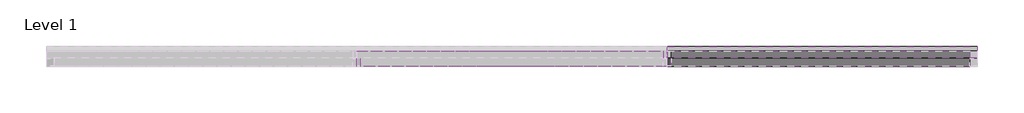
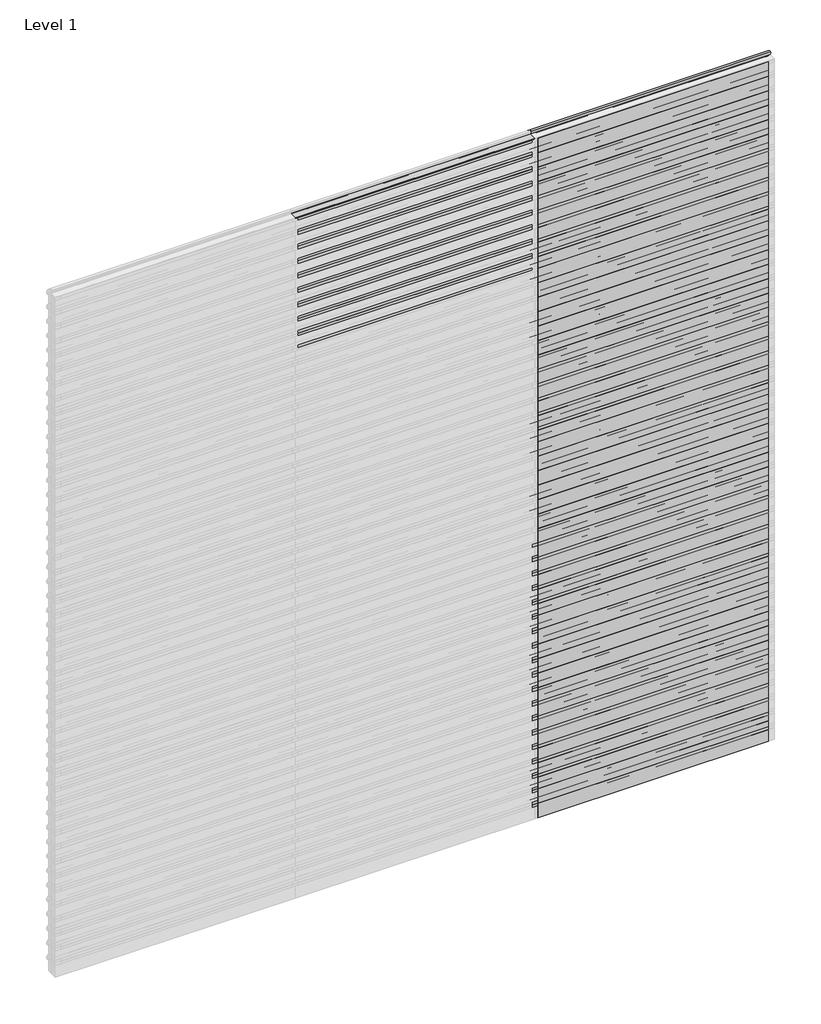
# One storey, part 4 of 5: 66 members, 57 plates.
"""IFC4 building model written with IfcOpenShell, lengths in millimetres."""

from ifc_helpers import new_model, si_unit, origin, place, context, project, spatial, transform, mapped, element, save
from components import rectangular_mullion_d23d7044, rectangular_mullion_172e3795, empty_system_panel_empty_3140acd4, empty_system_panel_empty_07f90b1f, empty_system_panel_empty_c620d78e

model = new_model("IFC4")

# Units and contexts
model_context = context("Model", 3, world=origin())
ifc_project = project(units=[si_unit("LENGTHUNIT", "METRE", prefix="MILLI")], contexts=[model_context])

# Site, building, storey
site = spatial("IfcSite", under=ifc_project)
building = spatial("IfcBuilding", under=site)
storey = spatial("IfcBuildingStorey", under=building, Name="Level 1", Elevation=0.0)

# Members
placement = place(None, origin())
rectangular_mullion_shape = rectangular_mullion_d23d7044(model_context)
element("IfcMember", 1, ObjectType="Rectangular Mullion : RSen_21_CWM_blade - 100 D_gen_duco projects", at=placement, inside=storey, context=model_context, shape_type="MappedRepresentation", body=[
    mapped(rectangular_mullion_shape, transform((4000.0, 3000.0, 127.5), x_axis=(0.0, 0.0, 1.0), y_axis=(0.0, 1.0, 0.0), z_axis=(-1.0, 0.0, 0.0))),
])
element("IfcMember", 2, ObjectType="Rectangular Mullion : RSen_21_CWM_blade - 100 D_gen_duco projects", at=placement, inside=storey, context=model_context, shape_type="MappedRepresentation", body=[
    mapped(rectangular_mullion_shape, transform((4000.0, 3000.0, 255.0), x_axis=(0.0, 0.0, 1.0), y_axis=(0.0, 1.0, 0.0), z_axis=(-1.0, 0.0, 0.0))),
])
element("IfcMember", 3, ObjectType="Rectangular Mullion : RSen_21_CWM_blade - 100 D_gen_duco projects", at=placement, inside=storey, context=model_context, shape_type="MappedRepresentation", body=[
    mapped(rectangular_mullion_shape, transform((4000.0, 3000.0, 382.5), x_axis=(0.0, 0.0, 1.0), y_axis=(0.0, 1.0, 0.0), z_axis=(-1.0, 0.0, 0.0))),
])
element("IfcMember", 4, ObjectType="Rectangular Mullion : RSen_21_CWM_blade - 100 D_gen_duco projects", at=placement, inside=storey, context=model_context, shape_type="MappedRepresentation", body=[
    mapped(rectangular_mullion_shape, transform((4000.0, 3000.0, 510.0), x_axis=(0.0, 0.0, 1.0), y_axis=(0.0, 1.0, 0.0), z_axis=(-1.0, 0.0, 0.0))),
])
element("IfcMember", 5, ObjectType="Rectangular Mullion : RSen_21_CWM_blade - 100 D_gen_duco projects", at=placement, inside=storey, context=model_context, shape_type="MappedRepresentation", body=[
    mapped(rectangular_mullion_shape, transform((4000.0, 3000.0, 637.5), x_axis=(0.0, 0.0, 1.0), y_axis=(0.0, 1.0, 0.0), z_axis=(-1.0, 0.0, 0.0))),
])
element("IfcMember", 6, ObjectType="Rectangular Mullion : RSen_21_CWM_blade - 100 D_gen_duco projects", at=placement, inside=storey, context=model_context, shape_type="MappedRepresentation", body=[
    mapped(rectangular_mullion_shape, transform((4000.0, 3000.0, 765.0), x_axis=(0.0, 0.0, 1.0), y_axis=(0.0, 1.0, 0.0), z_axis=(-1.0, 0.0, 0.0))),
])
element("IfcMember", 7, ObjectType="Rectangular Mullion : RSen_21_CWM_blade - 100 D_gen_duco projects", at=placement, inside=storey, context=model_context, shape_type="MappedRepresentation", body=[
    mapped(rectangular_mullion_shape, transform((4000.0, 3000.0, 892.5), x_axis=(0.0, 0.0, 1.0), y_axis=(0.0, 1.0, 0.0), z_axis=(-1.0, 0.0, 0.0))),
])
element("IfcMember", 8, ObjectType="Rectangular Mullion : RSen_21_CWM_blade - 100 D_gen_duco projects", at=placement, inside=storey, context=model_context, shape_type="MappedRepresentation", body=[
    mapped(rectangular_mullion_shape, transform((4000.0, 3000.0, 1020.0), x_axis=(0.0, 0.0, 1.0), y_axis=(0.0, 1.0, 0.0), z_axis=(-1.0, 0.0, 0.0))),
])
element("IfcMember", 9, ObjectType="Rectangular Mullion : RSen_21_CWM_blade - 100 D_gen_duco projects", at=placement, inside=storey, context=model_context, shape_type="MappedRepresentation", body=[
    mapped(rectangular_mullion_shape, transform((4000.0, 3000.0, 1147.5), x_axis=(0.0, 0.0, 1.0), y_axis=(0.0, 1.0, 0.0), z_axis=(-1.0, 0.0, 0.0))),
])
element("IfcMember", 10, ObjectType="Rectangular Mullion : RSen_21_CWM_blade - 100 D_gen_duco projects", at=placement, inside=storey, context=model_context, shape_type="MappedRepresentation", body=[
    mapped(rectangular_mullion_shape, transform((4000.0, 3000.0, 1275.0), x_axis=(0.0, 0.0, 1.0), y_axis=(0.0, 1.0, 0.0), z_axis=(-1.0, 0.0, 0.0))),
])
element("IfcMember", 11, ObjectType="Rectangular Mullion : RSen_21_CWM_blade - 100 D_gen_duco projects", at=placement, inside=storey, context=model_context, shape_type="MappedRepresentation", body=[
    mapped(rectangular_mullion_shape, transform((4000.0, 3000.0, 1402.5), x_axis=(0.0, 0.0, 1.0), y_axis=(0.0, 1.0, 0.0), z_axis=(-1.0, 0.0, 0.0))),
])
element("IfcMember", 12, ObjectType="Rectangular Mullion : RSen_21_CWM_blade - 100 D_gen_duco projects", at=placement, inside=storey, context=model_context, shape_type="MappedRepresentation", body=[
    mapped(rectangular_mullion_shape, transform((4000.0, 3000.0, 1530.0), x_axis=(0.0, 0.0, 1.0), y_axis=(0.0, 1.0, 0.0), z_axis=(-1.0, 0.0, 0.0))),
])
element("IfcMember", 13, ObjectType="Rectangular Mullion : RSen_21_CWM_blade - 100 D_gen_duco projects", at=placement, inside=storey, context=model_context, shape_type="MappedRepresentation", body=[
    mapped(rectangular_mullion_shape, transform((4000.0, 3000.0, 1657.5), x_axis=(0.0, 0.0, 1.0), y_axis=(0.0, 1.0, 0.0), z_axis=(-1.0, 0.0, 0.0))),
])
element("IfcMember", 14, ObjectType="Rectangular Mullion : RSen_21_CWM_blade - 100 D_gen_duco projects", at=placement, inside=storey, context=model_context, shape_type="MappedRepresentation", body=[
    mapped(rectangular_mullion_shape, transform((4000.0, 3000.0, 1785.0), x_axis=(0.0, 0.0, 1.0), y_axis=(0.0, 1.0, 0.0), z_axis=(-1.0, 0.0, 0.0))),
])
element("IfcMember", 15, ObjectType="Rectangular Mullion : RSen_21_CWM_blade - 100 D_gen_duco projects", at=placement, inside=storey, context=model_context, shape_type="MappedRepresentation", body=[
    mapped(rectangular_mullion_shape, transform((4000.0, 3000.0, 1912.5), x_axis=(0.0, 0.0, 1.0), y_axis=(0.0, 1.0, 0.0), z_axis=(-1.0, 0.0, 0.0))),
])
element("IfcMember", 16, ObjectType="Rectangular Mullion : RSen_21_CWM_blade - 100 D_gen_duco projects", at=placement, inside=storey, context=model_context, shape_type="MappedRepresentation", body=[
    mapped(rectangular_mullion_shape, transform((4000.0, 3000.0, 2040.0), x_axis=(0.0, 0.0, 1.0), y_axis=(0.0, 1.0, 0.0), z_axis=(-1.0, 0.0, 0.0))),
])
element("IfcMember", 17, ObjectType="Rectangular Mullion : RSen_21_CWM_blade - 100 D_gen_duco projects", at=placement, inside=storey, context=model_context, shape_type="MappedRepresentation", body=[
    mapped(rectangular_mullion_shape, transform((4000.0, 3000.0, 2167.5), x_axis=(0.0, 0.0, 1.0), y_axis=(0.0, 1.0, 0.0), z_axis=(-1.0, 0.0, 0.0))),
])
element("IfcMember", 18, ObjectType="Rectangular Mullion : RSen_21_CWM_blade - 100 D_gen_duco projects", at=placement, inside=storey, context=model_context, shape_type="MappedRepresentation", body=[
    mapped(rectangular_mullion_shape, transform((4000.0, 3000.0, 2295.0), x_axis=(0.0, 0.0, 1.0), y_axis=(0.0, 1.0, 0.0), z_axis=(-1.0, 0.0, 0.0))),
])
element("IfcMember", 19, ObjectType="Rectangular Mullion : RSen_21_CWM_blade - 100 D_gen_duco projects", at=placement, inside=storey, context=model_context, shape_type="MappedRepresentation", body=[
    mapped(rectangular_mullion_shape, transform((4000.0, 3000.0, 2422.5), x_axis=(0.0, 0.0, 1.0), y_axis=(0.0, 1.0, 0.0), z_axis=(-1.0, 0.0, 0.0))),
])
element("IfcMember", 20, ObjectType="Rectangular Mullion : RSen_21_CWM_blade - 100 D_gen_duco projects", at=placement, inside=storey, context=model_context, shape_type="MappedRepresentation", body=[
    mapped(rectangular_mullion_shape, transform((4000.0, 3000.0, 2550.0), x_axis=(0.0, 0.0, 1.0), y_axis=(0.0, 1.0, 0.0), z_axis=(-1.0, 0.0, 0.0))),
])
element("IfcMember", 21, ObjectType="Rectangular Mullion : RSen_21_CWM_blade - 100 D_gen_duco projects", at=placement, inside=storey, context=model_context, shape_type="MappedRepresentation", body=[
    mapped(rectangular_mullion_shape, transform((4000.0, 3000.0, 2677.5), x_axis=(0.0, 0.0, 1.0), y_axis=(0.0, 1.0, 0.0), z_axis=(-1.0, 0.0, 0.0))),
])
element("IfcMember", 22, ObjectType="Rectangular Mullion : RSen_21_CWM_blade - 100 D_gen_duco projects", at=placement, inside=storey, context=model_context, shape_type="MappedRepresentation", body=[
    mapped(rectangular_mullion_shape, transform((4000.0, 3000.0, 2805.0), x_axis=(0.0, 0.0, 1.0), y_axis=(0.0, 1.0, 0.0), z_axis=(-1.0, 0.0, 0.0))),
])
element("IfcMember", 23, ObjectType="Rectangular Mullion : RSen_21_CWM_blade - 100 D_gen_duco projects", at=placement, inside=storey, context=model_context, shape_type="MappedRepresentation", body=[
    mapped(rectangular_mullion_shape, transform((4000.0, 3000.0, 2932.5), x_axis=(0.0, 0.0, 1.0), y_axis=(0.0, 1.0, 0.0), z_axis=(-1.0, 0.0, 0.0))),
])
element("IfcMember", 24, ObjectType="Rectangular Mullion : RSen_21_CWM_blade - 100 D_gen_duco projects", at=placement, inside=storey, context=model_context, shape_type="MappedRepresentation", body=[
    mapped(rectangular_mullion_shape, transform((4000.0, 3000.0, 3060.0), x_axis=(0.0, 0.0, 1.0), y_axis=(0.0, 1.0, 0.0), z_axis=(-1.0, 0.0, 0.0))),
])
element("IfcMember", 25, ObjectType="Rectangular Mullion : RSen_21_CWM_blade - 100 D_gen_duco projects", at=placement, inside=storey, context=model_context, shape_type="MappedRepresentation", body=[
    mapped(rectangular_mullion_shape, transform((4000.0, 3000.0, 3187.5), x_axis=(0.0, 0.0, 1.0), y_axis=(0.0, 1.0, 0.0), z_axis=(-1.0, 0.0, 0.0))),
])
element("IfcMember", 26, ObjectType="Rectangular Mullion : RSen_21_CWM_blade - 100 D_gen_duco projects", at=placement, inside=storey, context=model_context, shape_type="MappedRepresentation", body=[
    mapped(rectangular_mullion_shape, transform((4000.0, 3000.0, 3315.0), x_axis=(0.0, 0.0, 1.0), y_axis=(0.0, 1.0, 0.0), z_axis=(-1.0, 0.0, 0.0))),
])
element("IfcMember", 27, ObjectType="Rectangular Mullion : RSen_21_CWM_blade - 100 D_gen_duco projects", at=placement, inside=storey, context=model_context, shape_type="MappedRepresentation", body=[
    mapped(rectangular_mullion_shape, transform((4000.0, 3000.0, 3442.5), x_axis=(0.0, 0.0, 1.0), y_axis=(0.0, 1.0, 0.0), z_axis=(-1.0, 0.0, 0.0))),
])
element("IfcMember", 28, ObjectType="Rectangular Mullion : RSen_21_CWM_blade - 100 D_gen_duco projects", at=placement, inside=storey, context=model_context, shape_type="MappedRepresentation", body=[
    mapped(rectangular_mullion_shape, transform((4000.0, 3000.0, 3570.0), x_axis=(0.0, 0.0, 1.0), y_axis=(0.0, 1.0, 0.0), z_axis=(-1.0, 0.0, 0.0))),
])
element("IfcMember", 29, ObjectType="Rectangular Mullion : RSen_21_CWM_blade - 100 D_gen_duco projects", at=placement, inside=storey, context=model_context, shape_type="MappedRepresentation", body=[
    mapped(rectangular_mullion_shape, transform((4000.0, 3000.0, 3697.5), x_axis=(0.0, 0.0, 1.0), y_axis=(0.0, 1.0, 0.0), z_axis=(-1.0, 0.0, 0.0))),
])
element("IfcMember", 30, ObjectType="Rectangular Mullion : RSen_21_CWM_blade - 100 D_gen_duco projects", at=placement, inside=storey, context=model_context, shape_type="MappedRepresentation", body=[
    mapped(rectangular_mullion_shape, transform((4000.0, 3000.0, 3825.0), x_axis=(0.0, 0.0, 1.0), y_axis=(0.0, 1.0, 0.0), z_axis=(-1.0, 0.0, 0.0))),
])
element("IfcMember", 31, ObjectType="Rectangular Mullion : RSen_21_CWM_blade - 100 D_gen_duco projects", at=placement, inside=storey, context=model_context, shape_type="MappedRepresentation", body=[
    mapped(rectangular_mullion_shape, transform((4000.0, 3000.0, 3952.5), x_axis=(0.0, 0.0, 1.0), y_axis=(0.0, 1.0, 0.0), z_axis=(-1.0, 0.0, 0.0))),
])
element("IfcMember", 32, ObjectType="Rectangular Mullion : RSen_21_CWM_blade - 100 D_gen_duco projects", at=placement, inside=storey, context=model_context, shape_type="MappedRepresentation", body=[
    mapped(rectangular_mullion_shape, transform((4000.0, 3000.0, 4080.0), x_axis=(0.0, 0.0, 1.0), y_axis=(0.0, 1.0, 0.0), z_axis=(-1.0, 0.0, 0.0))),
])
element("IfcMember", 33, ObjectType="Rectangular Mullion : RSen_21_CWM_blade - 100 D_gen_duco projects", at=placement, inside=storey, context=model_context, shape_type="MappedRepresentation", body=[
    mapped(rectangular_mullion_shape, transform((4000.0, 3000.0, 4207.5), x_axis=(0.0, 0.0, 1.0), y_axis=(0.0, 1.0, 0.0), z_axis=(-1.0, 0.0, 0.0))),
])
element("IfcMember", 34, ObjectType="Rectangular Mullion : RSen_21_CWM_blade - 100 D_gen_duco projects", at=placement, inside=storey, context=model_context, shape_type="MappedRepresentation", body=[
    mapped(rectangular_mullion_shape, transform((4000.0, 3000.0, 4335.0), x_axis=(0.0, 0.0, 1.0), y_axis=(0.0, 1.0, 0.0), z_axis=(-1.0, 0.0, 0.0))),
])
element("IfcMember", 35, ObjectType="Rectangular Mullion : RSen_21_CWM_blade - 100 D_gen_duco projects", at=placement, inside=storey, context=model_context, shape_type="MappedRepresentation", body=[
    mapped(rectangular_mullion_shape, transform((4000.0, 3000.0, 4462.5), x_axis=(0.0, 0.0, 1.0), y_axis=(0.0, 1.0, 0.0), z_axis=(-1.0, 0.0, 0.0))),
])
element("IfcMember", 36, ObjectType="Rectangular Mullion : RSen_21_CWM_blade - 100 D_gen_duco projects", at=placement, inside=storey, context=model_context, shape_type="MappedRepresentation", body=[
    mapped(rectangular_mullion_shape, transform((4000.0, 3000.0, 4590.0), x_axis=(0.0, 0.0, 1.0), y_axis=(0.0, 1.0, 0.0), z_axis=(-1.0, 0.0, 0.0))),
])
element("IfcMember", 37, ObjectType="Rectangular Mullion : RSen_21_CWM_blade - 100 D_gen_duco projects", at=placement, inside=storey, context=model_context, shape_type="MappedRepresentation", body=[
    mapped(rectangular_mullion_shape, transform((4000.0, 3000.0, 4717.5), x_axis=(0.0, 0.0, 1.0), y_axis=(0.0, 1.0, 0.0), z_axis=(-1.0, 0.0, 0.0))),
])
element("IfcMember", 38, ObjectType="Rectangular Mullion : RSen_21_CWM_blade - 100 D_gen_duco projects", at=placement, inside=storey, context=model_context, shape_type="MappedRepresentation", body=[
    mapped(rectangular_mullion_shape, transform((4000.0, 3000.0, 4845.0), x_axis=(0.0, 0.0, 1.0), y_axis=(0.0, 1.0, 0.0), z_axis=(-1.0, 0.0, 0.0))),
])
element("IfcMember", 39, ObjectType="Rectangular Mullion : RSen_21_CWM_blade - 100 D_gen_duco projects", at=placement, inside=storey, context=model_context, shape_type="MappedRepresentation", body=[
    mapped(rectangular_mullion_shape, transform((4000.0, 3000.0, 4972.5), x_axis=(0.0, 0.0, 1.0), y_axis=(0.0, 1.0, 0.0), z_axis=(-1.0, 0.0, 0.0))),
])
element("IfcMember", 40, ObjectType="Rectangular Mullion : RSen_21_CWM_blade - 100 D_gen_duco projects", at=placement, inside=storey, context=model_context, shape_type="MappedRepresentation", body=[
    mapped(rectangular_mullion_shape, transform((4000.0, 3000.0, 5100.0), x_axis=(0.0, 0.0, 1.0), y_axis=(0.0, 1.0, 0.0), z_axis=(-1.0, 0.0, 0.0))),
])
element("IfcMember", 41, ObjectType="Rectangular Mullion : RSen_21_CWM_blade - 100 D_gen_duco projects", at=placement, inside=storey, context=model_context, shape_type="MappedRepresentation", body=[
    mapped(rectangular_mullion_shape, transform((4000.0, 3000.0, 5227.5), x_axis=(0.0, 0.0, 1.0), y_axis=(0.0, 1.0, 0.0), z_axis=(-1.0, 0.0, 0.0))),
])
element("IfcMember", 42, ObjectType="Rectangular Mullion : RSen_21_CWM_blade - 100 D_gen_duco projects", at=placement, inside=storey, context=model_context, shape_type="MappedRepresentation", body=[
    mapped(rectangular_mullion_shape, transform((4000.0, 3000.0, 5355.0), x_axis=(0.0, 0.0, 1.0), y_axis=(0.0, 1.0, 0.0), z_axis=(-1.0, 0.0, 0.0))),
])
element("IfcMember", 43, ObjectType="Rectangular Mullion : RSen_21_CWM_blade - 100 D_gen_duco projects", at=placement, inside=storey, context=model_context, shape_type="MappedRepresentation", body=[
    mapped(rectangular_mullion_shape, transform((4000.0, 3000.0, 5482.5), x_axis=(0.0, 0.0, 1.0), y_axis=(0.0, 1.0, 0.0), z_axis=(-1.0, 0.0, 0.0))),
])
element("IfcMember", 44, ObjectType="Rectangular Mullion : RSen_21_CWM_blade - 100 D_gen_duco projects", at=placement, inside=storey, context=model_context, shape_type="MappedRepresentation", body=[
    mapped(rectangular_mullion_shape, transform((4000.0, 3000.0, 5610.0), x_axis=(0.0, 0.0, 1.0), y_axis=(0.0, 1.0, 0.0), z_axis=(-1.0, 0.0, 0.0))),
])
element("IfcMember", 45, ObjectType="Rectangular Mullion : RSen_21_CWM_blade - 100 D_gen_duco projects", at=placement, inside=storey, context=model_context, shape_type="MappedRepresentation", body=[
    mapped(rectangular_mullion_shape, transform((4000.0, 3000.0, 5737.5), x_axis=(0.0, 0.0, 1.0), y_axis=(0.0, 1.0, 0.0), z_axis=(-1.0, 0.0, 0.0))),
])
element("IfcMember", 46, ObjectType="Rectangular Mullion : RSen_21_CWM_blade - 100 D_gen_duco projects", at=placement, inside=storey, context=model_context, shape_type="MappedRepresentation", body=[
    mapped(rectangular_mullion_shape, transform((4000.0, 3000.0, 5865.0), x_axis=(0.0, 0.0, 1.0), y_axis=(0.0, 1.0, 0.0), z_axis=(-1.0, 0.0, 0.0))),
])
element("IfcMember", 47, ObjectType="Rectangular Mullion : RSen_21_CWM_blade - 100 D_gen_duco projects", at=placement, inside=storey, context=model_context, shape_type="MappedRepresentation", body=[
    mapped(rectangular_mullion_shape, transform((4000.0, 3000.0, 5992.5), x_axis=(0.0, 0.0, 1.0), y_axis=(0.0, 1.0, 0.0), z_axis=(-1.0, 0.0, 0.0))),
])
rectangular_mullion_2_shape = rectangular_mullion_172e3795(model_context)
element("IfcMember", 48, ObjectType="Rectangular Mullion : RSen_21_CWM_support profile 50x50_gen_duco projects", at=placement, inside=storey, context=model_context, shape_type="MappedRepresentation", body=[
    mapped(rectangular_mullion_2_shape, transform((4000.0, 3000.0, 0.0), x_axis=(-1.0, 0.0, 0.0), y_axis=(0.0, 1.0, 0.0), z_axis=(0.0, 0.0, -1.0))),
])
element("IfcMember", 49, ObjectType="Rectangular Mullion : RSen_21_CWM_support profile 50x50_gen_duco projects", at=placement, inside=storey, context=model_context, shape_type="MappedRepresentation", body=[
    mapped(rectangular_mullion_2_shape, transform((4000.0, 3000.0, 127.5), x_axis=(-1.0, 0.0, 0.0), y_axis=(0.0, 1.0, 0.0), z_axis=(0.0, 0.0, -1.0))),
])
element("IfcMember", 50, ObjectType="Rectangular Mullion : RSen_21_CWM_support profile 50x50_gen_duco projects", at=placement, inside=storey, context=model_context, shape_type="MappedRepresentation", body=[
    mapped(rectangular_mullion_2_shape, transform((4000.0, 3000.0, 255.0), x_axis=(-1.0, 0.0, 0.0), y_axis=(0.0, 1.0, 0.0), z_axis=(0.0, 0.0, -1.0))),
])
element("IfcMember", 51, ObjectType="Rectangular Mullion : RSen_21_CWM_support profile 50x50_gen_duco projects", at=placement, inside=storey, context=model_context, shape_type="MappedRepresentation", body=[
    mapped(rectangular_mullion_2_shape, transform((4000.0, 3000.0, 382.5), x_axis=(-1.0, 0.0, 0.0), y_axis=(0.0, 1.0, 0.0), z_axis=(0.0, 0.0, -1.0))),
])
element("IfcMember", 52, ObjectType="Rectangular Mullion : RSen_21_CWM_support profile 50x50_gen_duco projects", at=placement, inside=storey, context=model_context, shape_type="MappedRepresentation", body=[
    mapped(rectangular_mullion_2_shape, transform((4000.0, 3000.0, 510.0), x_axis=(-1.0, 0.0, 0.0), y_axis=(0.0, 1.0, 0.0), z_axis=(0.0, 0.0, -1.0))),
])
element("IfcMember", 53, ObjectType="Rectangular Mullion : RSen_21_CWM_support profile 50x50_gen_duco projects", at=placement, inside=storey, context=model_context, shape_type="MappedRepresentation", body=[
    mapped(rectangular_mullion_2_shape, transform((4000.0, 3000.0, 637.5), x_axis=(-1.0, 0.0, 0.0), y_axis=(0.0, 1.0, 0.0), z_axis=(0.0, 0.0, -1.0))),
])
element("IfcMember", 54, ObjectType="Rectangular Mullion : RSen_21_CWM_support profile 50x50_gen_duco projects", at=placement, inside=storey, context=model_context, shape_type="MappedRepresentation", body=[
    mapped(rectangular_mullion_2_shape, transform((4000.0, 3000.0, 765.0), x_axis=(-1.0, 0.0, 0.0), y_axis=(0.0, 1.0, 0.0), z_axis=(0.0, 0.0, -1.0))),
])
element("IfcMember", 55, ObjectType="Rectangular Mullion : RSen_21_CWM_support profile 50x50_gen_duco projects", at=placement, inside=storey, context=model_context, shape_type="MappedRepresentation", body=[
    mapped(rectangular_mullion_2_shape, transform((4000.0, 3000.0, 892.5), x_axis=(-1.0, 0.0, 0.0), y_axis=(0.0, 1.0, 0.0), z_axis=(0.0, 0.0, -1.0))),
])
element("IfcMember", 56, ObjectType="Rectangular Mullion : RSen_21_CWM_support profile 50x50_gen_duco projects", at=placement, inside=storey, context=model_context, shape_type="MappedRepresentation", body=[
    mapped(rectangular_mullion_2_shape, transform((4000.0, 3000.0, 1020.0), x_axis=(-1.0, 0.0, 0.0), y_axis=(0.0, 1.0, 0.0), z_axis=(0.0, 0.0, -1.0))),
])
element("IfcMember", 57, ObjectType="Rectangular Mullion : RSen_21_CWM_support profile 50x50_gen_duco projects", at=placement, inside=storey, context=model_context, shape_type="MappedRepresentation", body=[
    mapped(rectangular_mullion_2_shape, transform((4000.0, 3000.0, 1147.5), x_axis=(-1.0, 0.0, 0.0), y_axis=(0.0, 1.0, 0.0), z_axis=(0.0, 0.0, -1.0))),
])
element("IfcMember", 58, ObjectType="Rectangular Mullion : RSen_21_CWM_support profile 50x50_gen_duco projects", at=placement, inside=storey, context=model_context, shape_type="MappedRepresentation", body=[
    mapped(rectangular_mullion_2_shape, transform((4000.0, 3000.0, 1275.0), x_axis=(-1.0, 0.0, 0.0), y_axis=(0.0, 1.0, 0.0), z_axis=(0.0, 0.0, -1.0))),
])
element("IfcMember", 59, ObjectType="Rectangular Mullion : RSen_21_CWM_support profile 50x50_gen_duco projects", at=placement, inside=storey, context=model_context, shape_type="MappedRepresentation", body=[
    mapped(rectangular_mullion_2_shape, transform((4000.0, 3000.0, 1402.5), x_axis=(-1.0, 0.0, 0.0), y_axis=(0.0, 1.0, 0.0), z_axis=(0.0, 0.0, -1.0))),
])
element("IfcMember", 60, ObjectType="Rectangular Mullion : RSen_21_CWM_support profile 50x50_gen_duco projects", at=placement, inside=storey, context=model_context, shape_type="MappedRepresentation", body=[
    mapped(rectangular_mullion_2_shape, transform((4000.0, 3000.0, 1530.0), x_axis=(-1.0, 0.0, 0.0), y_axis=(0.0, 1.0, 0.0), z_axis=(0.0, 0.0, -1.0))),
])
element("IfcMember", 61, ObjectType="Rectangular Mullion : RSen_21_CWM_support profile 50x50_gen_duco projects", at=placement, inside=storey, context=model_context, shape_type="MappedRepresentation", body=[
    mapped(rectangular_mullion_2_shape, transform((4000.0, 3000.0, 1657.5), x_axis=(-1.0, 0.0, 0.0), y_axis=(0.0, 1.0, 0.0), z_axis=(0.0, 0.0, -1.0))),
])
element("IfcMember", 62, ObjectType="Rectangular Mullion : RSen_21_CWM_support profile 50x50_gen_duco projects", at=placement, inside=storey, context=model_context, shape_type="MappedRepresentation", body=[
    mapped(rectangular_mullion_2_shape, transform((4000.0, 3000.0, 1785.0), x_axis=(-1.0, 0.0, 0.0), y_axis=(0.0, 1.0, 0.0), z_axis=(0.0, 0.0, -1.0))),
])
element("IfcMember", 63, ObjectType="Rectangular Mullion : RSen_21_CWM_support profile 50x50_gen_duco projects", at=placement, inside=storey, context=model_context, shape_type="MappedRepresentation", body=[
    mapped(rectangular_mullion_2_shape, transform((4000.0, 3000.0, 1912.5), x_axis=(-1.0, 0.0, 0.0), y_axis=(0.0, 1.0, 0.0), z_axis=(0.0, 0.0, -1.0))),
])
element("IfcMember", 64, ObjectType="Rectangular Mullion : RSen_21_CWM_support profile 50x50_gen_duco projects", at=placement, inside=storey, context=model_context, shape_type="MappedRepresentation", body=[
    mapped(rectangular_mullion_2_shape, transform((4000.0, 3000.0, 2040.0), x_axis=(-1.0, 0.0, 0.0), y_axis=(0.0, 1.0, 0.0), z_axis=(0.0, 0.0, -1.0))),
])
element("IfcMember", 65, ObjectType="Rectangular Mullion : RSen_21_CWM_support profile 50x50_gen_duco projects", at=placement, inside=storey, context=model_context, shape_type="MappedRepresentation", body=[
    mapped(rectangular_mullion_2_shape, transform((4000.0, 3000.0, 2167.5), x_axis=(-1.0, 0.0, 0.0), y_axis=(0.0, 1.0, 0.0), z_axis=(0.0, 0.0, -1.0))),
])
element("IfcMember", 66, ObjectType="Rectangular Mullion : RSen_21_CWM_support profile 50x50_gen_duco projects", at=placement, inside=storey, context=model_context, shape_type="MappedRepresentation", body=[
    mapped(rectangular_mullion_2_shape, transform((4000.0, 3000.0, 2295.0), x_axis=(-1.0, 0.0, 0.0), y_axis=(0.0, 1.0, 0.0), z_axis=(0.0, 0.0, -1.0))),
])

# Plates
empty_system_panel_empty_shape = empty_system_panel_empty_3140acd4(model_context)
element("IfcPlate", 67, ObjectType="Empty System Panel : Empty", at=placement, inside=storey, context=model_context, shape_type="MappedRepresentation", body=[
    mapped(empty_system_panel_empty_shape, transform((4987.5, 3000.0, 0.0), x_axis=(-1.0, 0.0, 0.0), y_axis=(0.0, -1.0, 0.0), z_axis=(0.0, 0.0, 1.0))),
])
element("IfcPlate", 68, ObjectType="Empty System Panel : Empty", at=placement, inside=storey, context=model_context, shape_type="MappedRepresentation", body=[
    mapped(empty_system_panel_empty_shape, transform((4987.5, 3000.0, 127.5), x_axis=(-1.0, 0.0, 0.0), y_axis=(0.0, -1.0, 0.0), z_axis=(0.0, 0.0, 1.0))),
])
element("IfcPlate", 69, ObjectType="Empty System Panel : Empty", at=placement, inside=storey, context=model_context, shape_type="MappedRepresentation", body=[
    mapped(empty_system_panel_empty_shape, transform((4987.5, 3000.0, 255.0), x_axis=(-1.0, 0.0, 0.0), y_axis=(0.0, -1.0, 0.0), z_axis=(0.0, 0.0, 1.0))),
])
element("IfcPlate", 70, ObjectType="Empty System Panel : Empty", at=placement, inside=storey, context=model_context, shape_type="MappedRepresentation", body=[
    mapped(empty_system_panel_empty_shape, transform((4987.5, 3000.0, 382.5), x_axis=(-1.0, 0.0, 0.0), y_axis=(0.0, -1.0, 0.0), z_axis=(0.0, 0.0, 1.0))),
])
element("IfcPlate", 71, ObjectType="Empty System Panel : Empty", at=placement, inside=storey, context=model_context, shape_type="MappedRepresentation", body=[
    mapped(empty_system_panel_empty_shape, transform((4987.5, 3000.0, 510.0), x_axis=(-1.0, 0.0, 0.0), y_axis=(0.0, -1.0, 0.0), z_axis=(0.0, 0.0, 1.0))),
])
element("IfcPlate", 72, ObjectType="Empty System Panel : Empty", at=placement, inside=storey, context=model_context, shape_type="MappedRepresentation", body=[
    mapped(empty_system_panel_empty_shape, transform((4987.5, 3000.0, 637.5), x_axis=(-1.0, 0.0, 0.0), y_axis=(0.0, -1.0, 0.0), z_axis=(0.0, 0.0, 1.0))),
])
element("IfcPlate", 73, ObjectType="Empty System Panel : Empty", at=placement, inside=storey, context=model_context, shape_type="MappedRepresentation", body=[
    mapped(empty_system_panel_empty_shape, transform((4987.5, 3000.0, 765.0), x_axis=(-1.0, 0.0, 0.0), y_axis=(0.0, -1.0, 0.0), z_axis=(0.0, 0.0, 1.0))),
])
element("IfcPlate", 74, ObjectType="Empty System Panel : Empty", at=placement, inside=storey, context=model_context, shape_type="MappedRepresentation", body=[
    mapped(empty_system_panel_empty_shape, transform((4987.5, 3000.0, 892.5), x_axis=(-1.0, 0.0, 0.0), y_axis=(0.0, -1.0, 0.0), z_axis=(0.0, 0.0, 1.0))),
])
element("IfcPlate", 75, ObjectType="Empty System Panel : Empty", at=placement, inside=storey, context=model_context, shape_type="MappedRepresentation", body=[
    mapped(empty_system_panel_empty_shape, transform((4987.5, 3000.0, 1020.0), x_axis=(-1.0, 0.0, 0.0), y_axis=(0.0, -1.0, 0.0), z_axis=(0.0, 0.0, 1.0))),
])
element("IfcPlate", 76, ObjectType="Empty System Panel : Empty", at=placement, inside=storey, context=model_context, shape_type="MappedRepresentation", body=[
    mapped(empty_system_panel_empty_shape, transform((4987.5, 3000.0, 1147.5), x_axis=(-1.0, 0.0, 0.0), y_axis=(0.0, -1.0, 0.0), z_axis=(0.0, 0.0, 1.0))),
])
element("IfcPlate", 77, ObjectType="Empty System Panel : Empty", at=placement, inside=storey, context=model_context, shape_type="MappedRepresentation", body=[
    mapped(empty_system_panel_empty_shape, transform((4987.5, 3000.0, 1275.0), x_axis=(-1.0, 0.0, 0.0), y_axis=(0.0, -1.0, 0.0), z_axis=(0.0, 0.0, 1.0))),
])
element("IfcPlate", 78, ObjectType="Empty System Panel : Empty", at=placement, inside=storey, context=model_context, shape_type="MappedRepresentation", body=[
    mapped(empty_system_panel_empty_shape, transform((4987.5, 3000.0, 1402.5), x_axis=(-1.0, 0.0, 0.0), y_axis=(0.0, -1.0, 0.0), z_axis=(0.0, 0.0, 1.0))),
])
element("IfcPlate", 79, ObjectType="Empty System Panel : Empty", at=placement, inside=storey, context=model_context, shape_type="MappedRepresentation", body=[
    mapped(empty_system_panel_empty_shape, transform((4987.5, 3000.0, 1530.0), x_axis=(-1.0, 0.0, 0.0), y_axis=(0.0, -1.0, 0.0), z_axis=(0.0, 0.0, 1.0))),
])
element("IfcPlate", 80, ObjectType="Empty System Panel : Empty", at=placement, inside=storey, context=model_context, shape_type="MappedRepresentation", body=[
    mapped(empty_system_panel_empty_shape, transform((4987.5, 3000.0, 1657.5), x_axis=(-1.0, 0.0, 0.0), y_axis=(0.0, -1.0, 0.0), z_axis=(0.0, 0.0, 1.0))),
])
element("IfcPlate", 81, ObjectType="Empty System Panel : Empty", at=placement, inside=storey, context=model_context, shape_type="MappedRepresentation", body=[
    mapped(empty_system_panel_empty_shape, transform((4987.5, 3000.0, 1785.0), x_axis=(-1.0, 0.0, 0.0), y_axis=(0.0, -1.0, 0.0), z_axis=(0.0, 0.0, 1.0))),
])
element("IfcPlate", 82, ObjectType="Empty System Panel : Empty", at=placement, inside=storey, context=model_context, shape_type="MappedRepresentation", body=[
    mapped(empty_system_panel_empty_shape, transform((4987.5, 3000.0, 1912.5), x_axis=(-1.0, 0.0, 0.0), y_axis=(0.0, -1.0, 0.0), z_axis=(0.0, 0.0, 1.0))),
])
element("IfcPlate", 83, ObjectType="Empty System Panel : Empty", at=placement, inside=storey, context=model_context, shape_type="MappedRepresentation", body=[
    mapped(empty_system_panel_empty_shape, transform((4987.5, 3000.0, 2040.0), x_axis=(-1.0, 0.0, 0.0), y_axis=(0.0, -1.0, 0.0), z_axis=(0.0, 0.0, 1.0))),
])
element("IfcPlate", 84, ObjectType="Empty System Panel : Empty", at=placement, inside=storey, context=model_context, shape_type="MappedRepresentation", body=[
    mapped(empty_system_panel_empty_shape, transform((4987.5, 3000.0, 2167.5), x_axis=(-1.0, 0.0, 0.0), y_axis=(0.0, -1.0, 0.0), z_axis=(0.0, 0.0, 1.0))),
])
element("IfcPlate", 85, ObjectType="Empty System Panel : Empty", at=placement, inside=storey, context=model_context, shape_type="MappedRepresentation", body=[
    mapped(empty_system_panel_empty_shape, transform((4987.5, 3000.0, 2295.0), x_axis=(-1.0, 0.0, 0.0), y_axis=(0.0, -1.0, 0.0), z_axis=(0.0, 0.0, 1.0))),
])
element("IfcPlate", 86, ObjectType="Empty System Panel : Empty", at=placement, inside=storey, context=model_context, shape_type="MappedRepresentation", body=[
    mapped(empty_system_panel_empty_shape, transform((4987.5, 3000.0, 2422.5), x_axis=(-1.0, 0.0, 0.0), y_axis=(0.0, -1.0, 0.0), z_axis=(0.0, 0.0, 1.0))),
])
element("IfcPlate", 87, ObjectType="Empty System Panel : Empty", at=placement, inside=storey, context=model_context, shape_type="MappedRepresentation", body=[
    mapped(empty_system_panel_empty_shape, transform((4987.5, 3000.0, 2550.0), x_axis=(-1.0, 0.0, 0.0), y_axis=(0.0, -1.0, 0.0), z_axis=(0.0, 0.0, 1.0))),
])
element("IfcPlate", 88, ObjectType="Empty System Panel : Empty", at=placement, inside=storey, context=model_context, shape_type="MappedRepresentation", body=[
    mapped(empty_system_panel_empty_shape, transform((4987.5, 3000.0, 2677.5), x_axis=(-1.0, 0.0, 0.0), y_axis=(0.0, -1.0, 0.0), z_axis=(0.0, 0.0, 1.0))),
])
element("IfcPlate", 89, ObjectType="Empty System Panel : Empty", at=placement, inside=storey, context=model_context, shape_type="MappedRepresentation", body=[
    mapped(empty_system_panel_empty_shape, transform((4987.5, 3000.0, 2805.0), x_axis=(-1.0, 0.0, 0.0), y_axis=(0.0, -1.0, 0.0), z_axis=(0.0, 0.0, 1.0))),
])
element("IfcPlate", 90, ObjectType="Empty System Panel : Empty", at=placement, inside=storey, context=model_context, shape_type="MappedRepresentation", body=[
    mapped(empty_system_panel_empty_shape, transform((4987.5, 3000.0, 2932.5), x_axis=(-1.0, 0.0, 0.0), y_axis=(0.0, -1.0, 0.0), z_axis=(0.0, 0.0, 1.0))),
])
element("IfcPlate", 91, ObjectType="Empty System Panel : Empty", at=placement, inside=storey, context=model_context, shape_type="MappedRepresentation", body=[
    mapped(empty_system_panel_empty_shape, transform((4987.5, 3000.0, 3060.0), x_axis=(-1.0, 0.0, 0.0), y_axis=(0.0, -1.0, 0.0), z_axis=(0.0, 0.0, 1.0))),
])
element("IfcPlate", 92, ObjectType="Empty System Panel : Empty", at=placement, inside=storey, context=model_context, shape_type="MappedRepresentation", body=[
    mapped(empty_system_panel_empty_shape, transform((4987.5, 3000.0, 3187.5), x_axis=(-1.0, 0.0, 0.0), y_axis=(0.0, -1.0, 0.0), z_axis=(0.0, 0.0, 1.0))),
])
element("IfcPlate", 93, ObjectType="Empty System Panel : Empty", at=placement, inside=storey, context=model_context, shape_type="MappedRepresentation", body=[
    mapped(empty_system_panel_empty_shape, transform((4987.5, 3000.0, 3315.0), x_axis=(-1.0, 0.0, 0.0), y_axis=(0.0, -1.0, 0.0), z_axis=(0.0, 0.0, 1.0))),
])
element("IfcPlate", 94, ObjectType="Empty System Panel : Empty", at=placement, inside=storey, context=model_context, shape_type="MappedRepresentation", body=[
    mapped(empty_system_panel_empty_shape, transform((4987.5, 3000.0, 3442.5), x_axis=(-1.0, 0.0, 0.0), y_axis=(0.0, -1.0, 0.0), z_axis=(0.0, 0.0, 1.0))),
])
element("IfcPlate", 95, ObjectType="Empty System Panel : Empty", at=placement, inside=storey, context=model_context, shape_type="MappedRepresentation", body=[
    mapped(empty_system_panel_empty_shape, transform((4987.5, 3000.0, 3570.0), x_axis=(-1.0, 0.0, 0.0), y_axis=(0.0, -1.0, 0.0), z_axis=(0.0, 0.0, 1.0))),
])
element("IfcPlate", 96, ObjectType="Empty System Panel : Empty", at=placement, inside=storey, context=model_context, shape_type="MappedRepresentation", body=[
    mapped(empty_system_panel_empty_shape, transform((4987.5, 3000.0, 3697.5), x_axis=(-1.0, 0.0, 0.0), y_axis=(0.0, -1.0, 0.0), z_axis=(0.0, 0.0, 1.0))),
])
element("IfcPlate", 97, ObjectType="Empty System Panel : Empty", at=placement, inside=storey, context=model_context, shape_type="MappedRepresentation", body=[
    mapped(empty_system_panel_empty_shape, transform((4987.5, 3000.0, 3825.0), x_axis=(-1.0, 0.0, 0.0), y_axis=(0.0, -1.0, 0.0), z_axis=(0.0, 0.0, 1.0))),
])
element("IfcPlate", 98, ObjectType="Empty System Panel : Empty", at=placement, inside=storey, context=model_context, shape_type="MappedRepresentation", body=[
    mapped(empty_system_panel_empty_shape, transform((4987.5, 3000.0, 3952.5), x_axis=(-1.0, 0.0, 0.0), y_axis=(0.0, -1.0, 0.0), z_axis=(0.0, 0.0, 1.0))),
])
element("IfcPlate", 99, ObjectType="Empty System Panel : Empty", at=placement, inside=storey, context=model_context, shape_type="MappedRepresentation", body=[
    mapped(empty_system_panel_empty_shape, transform((4987.5, 3000.0, 4080.0), x_axis=(-1.0, 0.0, 0.0), y_axis=(0.0, -1.0, 0.0), z_axis=(0.0, 0.0, 1.0))),
])
element("IfcPlate", 100, ObjectType="Empty System Panel : Empty", at=placement, inside=storey, context=model_context, shape_type="MappedRepresentation", body=[
    mapped(empty_system_panel_empty_shape, transform((4987.5, 3000.0, 4207.5), x_axis=(-1.0, 0.0, 0.0), y_axis=(0.0, -1.0, 0.0), z_axis=(0.0, 0.0, 1.0))),
])
element("IfcPlate", 101, ObjectType="Empty System Panel : Empty", at=placement, inside=storey, context=model_context, shape_type="MappedRepresentation", body=[
    mapped(empty_system_panel_empty_shape, transform((4987.5, 3000.0, 4335.0), x_axis=(-1.0, 0.0, 0.0), y_axis=(0.0, -1.0, 0.0), z_axis=(0.0, 0.0, 1.0))),
])
element("IfcPlate", 102, ObjectType="Empty System Panel : Empty", at=placement, inside=storey, context=model_context, shape_type="MappedRepresentation", body=[
    mapped(empty_system_panel_empty_shape, transform((4987.5, 3000.0, 4462.5), x_axis=(-1.0, 0.0, 0.0), y_axis=(0.0, -1.0, 0.0), z_axis=(0.0, 0.0, 1.0))),
])
element("IfcPlate", 103, ObjectType="Empty System Panel : Empty", at=placement, inside=storey, context=model_context, shape_type="MappedRepresentation", body=[
    mapped(empty_system_panel_empty_shape, transform((4987.5, 3000.0, 4590.0), x_axis=(-1.0, 0.0, 0.0), y_axis=(0.0, -1.0, 0.0), z_axis=(0.0, 0.0, 1.0))),
])
element("IfcPlate", 104, ObjectType="Empty System Panel : Empty", at=placement, inside=storey, context=model_context, shape_type="MappedRepresentation", body=[
    mapped(empty_system_panel_empty_shape, transform((4987.5, 3000.0, 4717.5), x_axis=(-1.0, 0.0, 0.0), y_axis=(0.0, -1.0, 0.0), z_axis=(0.0, 0.0, 1.0))),
])
element("IfcPlate", 105, ObjectType="Empty System Panel : Empty", at=placement, inside=storey, context=model_context, shape_type="MappedRepresentation", body=[
    mapped(empty_system_panel_empty_shape, transform((4987.5, 3000.0, 4845.0), x_axis=(-1.0, 0.0, 0.0), y_axis=(0.0, -1.0, 0.0), z_axis=(0.0, 0.0, 1.0))),
])
element("IfcPlate", 106, ObjectType="Empty System Panel : Empty", at=placement, inside=storey, context=model_context, shape_type="MappedRepresentation", body=[
    mapped(empty_system_panel_empty_shape, transform((4987.5, 3000.0, 4972.5), x_axis=(-1.0, 0.0, 0.0), y_axis=(0.0, -1.0, 0.0), z_axis=(0.0, 0.0, 1.0))),
])
element("IfcPlate", 107, ObjectType="Empty System Panel : Empty", at=placement, inside=storey, context=model_context, shape_type="MappedRepresentation", body=[
    mapped(empty_system_panel_empty_shape, transform((4987.5, 3000.0, 5100.0), x_axis=(-1.0, 0.0, 0.0), y_axis=(0.0, -1.0, 0.0), z_axis=(0.0, 0.0, 1.0))),
])
element("IfcPlate", 108, ObjectType="Empty System Panel : Empty", at=placement, inside=storey, context=model_context, shape_type="MappedRepresentation", body=[
    mapped(empty_system_panel_empty_shape, transform((4987.5, 3000.0, 5227.5), x_axis=(-1.0, 0.0, 0.0), y_axis=(0.0, -1.0, 0.0), z_axis=(0.0, 0.0, 1.0))),
])
element("IfcPlate", 109, ObjectType="Empty System Panel : Empty", at=placement, inside=storey, context=model_context, shape_type="MappedRepresentation", body=[
    mapped(empty_system_panel_empty_shape, transform((4987.5, 3000.0, 5355.0), x_axis=(-1.0, 0.0, 0.0), y_axis=(0.0, -1.0, 0.0), z_axis=(0.0, 0.0, 1.0))),
])
element("IfcPlate", 110, ObjectType="Empty System Panel : Empty", at=placement, inside=storey, context=model_context, shape_type="MappedRepresentation", body=[
    mapped(empty_system_panel_empty_shape, transform((4987.5, 3000.0, 5482.5), x_axis=(-1.0, 0.0, 0.0), y_axis=(0.0, -1.0, 0.0), z_axis=(0.0, 0.0, 1.0))),
])
element("IfcPlate", 111, ObjectType="Empty System Panel : Empty", at=placement, inside=storey, context=model_context, shape_type="MappedRepresentation", body=[
    mapped(empty_system_panel_empty_shape, transform((4987.5, 3000.0, 5610.0), x_axis=(-1.0, 0.0, 0.0), y_axis=(0.0, -1.0, 0.0), z_axis=(0.0, 0.0, 1.0))),
])
element("IfcPlate", 112, ObjectType="Empty System Panel : Empty", at=placement, inside=storey, context=model_context, shape_type="MappedRepresentation", body=[
    mapped(empty_system_panel_empty_shape, transform((4987.5, 3000.0, 5737.5), x_axis=(-1.0, 0.0, 0.0), y_axis=(0.0, -1.0, 0.0), z_axis=(0.0, 0.0, 1.0))),
])
element("IfcPlate", 113, ObjectType="Empty System Panel : Empty", at=placement, inside=storey, context=model_context, shape_type="MappedRepresentation", body=[
    mapped(empty_system_panel_empty_shape, transform((4987.5, 3000.0, 5865.0), x_axis=(-1.0, 0.0, 0.0), y_axis=(0.0, -1.0, 0.0), z_axis=(0.0, 0.0, 1.0))),
])
empty_system_panel_empty_2_shape = empty_system_panel_empty_07f90b1f(model_context)
element("IfcPlate", 114, ObjectType="Empty System Panel : Empty", at=placement, inside=storey, context=model_context, shape_type="MappedRepresentation", body=[
    mapped(empty_system_panel_empty_2_shape, transform((3000.0, 3000.0, 4845.0), x_axis=(-1.0, 0.0, 0.0), y_axis=(0.0, -1.0, 0.0), z_axis=(0.0, 0.0, 1.0))),
])
element("IfcPlate", 115, ObjectType="Empty System Panel : Empty", at=placement, inside=storey, context=model_context, shape_type="MappedRepresentation", body=[
    mapped(empty_system_panel_empty_2_shape, transform((3000.0, 3000.0, 4972.5), x_axis=(-1.0, 0.0, 0.0), y_axis=(0.0, -1.0, 0.0), z_axis=(0.0, 0.0, 1.0))),
])
element("IfcPlate", 116, ObjectType="Empty System Panel : Empty", at=placement, inside=storey, context=model_context, shape_type="MappedRepresentation", body=[
    mapped(empty_system_panel_empty_2_shape, transform((3000.0, 3000.0, 5100.0), x_axis=(-1.0, 0.0, 0.0), y_axis=(0.0, -1.0, 0.0), z_axis=(0.0, 0.0, 1.0))),
])
element("IfcPlate", 117, ObjectType="Empty System Panel : Empty", at=placement, inside=storey, context=model_context, shape_type="MappedRepresentation", body=[
    mapped(empty_system_panel_empty_2_shape, transform((3000.0, 3000.0, 5227.5), x_axis=(-1.0, 0.0, 0.0), y_axis=(0.0, -1.0, 0.0), z_axis=(0.0, 0.0, 1.0))),
])
element("IfcPlate", 118, ObjectType="Empty System Panel : Empty", at=placement, inside=storey, context=model_context, shape_type="MappedRepresentation", body=[
    mapped(empty_system_panel_empty_2_shape, transform((3000.0, 3000.0, 5355.0), x_axis=(-1.0, 0.0, 0.0), y_axis=(0.0, -1.0, 0.0), z_axis=(0.0, 0.0, 1.0))),
])
element("IfcPlate", 119, ObjectType="Empty System Panel : Empty", at=placement, inside=storey, context=model_context, shape_type="MappedRepresentation", body=[
    mapped(empty_system_panel_empty_2_shape, transform((3000.0, 3000.0, 5482.5), x_axis=(-1.0, 0.0, 0.0), y_axis=(0.0, -1.0, 0.0), z_axis=(0.0, 0.0, 1.0))),
])
element("IfcPlate", 120, ObjectType="Empty System Panel : Empty", at=placement, inside=storey, context=model_context, shape_type="MappedRepresentation", body=[
    mapped(empty_system_panel_empty_2_shape, transform((3000.0, 3000.0, 5610.0), x_axis=(-1.0, 0.0, 0.0), y_axis=(0.0, -1.0, 0.0), z_axis=(0.0, 0.0, 1.0))),
])
element("IfcPlate", 121, ObjectType="Empty System Panel : Empty", at=placement, inside=storey, context=model_context, shape_type="MappedRepresentation", body=[
    mapped(empty_system_panel_empty_2_shape, transform((3000.0, 3000.0, 5737.5), x_axis=(-1.0, 0.0, 0.0), y_axis=(0.0, -1.0, 0.0), z_axis=(0.0, 0.0, 1.0))),
])
element("IfcPlate", 122, ObjectType="Empty System Panel : Empty", at=placement, inside=storey, context=model_context, shape_type="MappedRepresentation", body=[
    mapped(empty_system_panel_empty_2_shape, transform((3000.0, 3000.0, 5865.0), x_axis=(-1.0, 0.0, 0.0), y_axis=(0.0, -1.0, 0.0), z_axis=(0.0, 0.0, 1.0))),
])
empty_system_panel_empty_3_shape = empty_system_panel_empty_c620d78e(model_context)
element("IfcPlate", 123, ObjectType="Empty System Panel : Empty", at=placement, inside=storey, context=model_context, shape_type="MappedRepresentation", body=[
    mapped(empty_system_panel_empty_3_shape, transform((3000.0, 3000.0, 5992.5), x_axis=(-1.0, 0.0, 0.0), y_axis=(0.0, -1.0, 0.0), z_axis=(0.0, 0.0, 1.0))),
])

save(model, "model.ifc")
